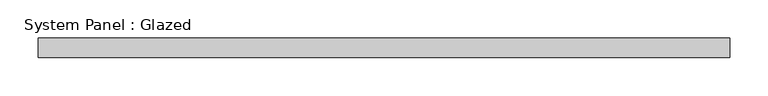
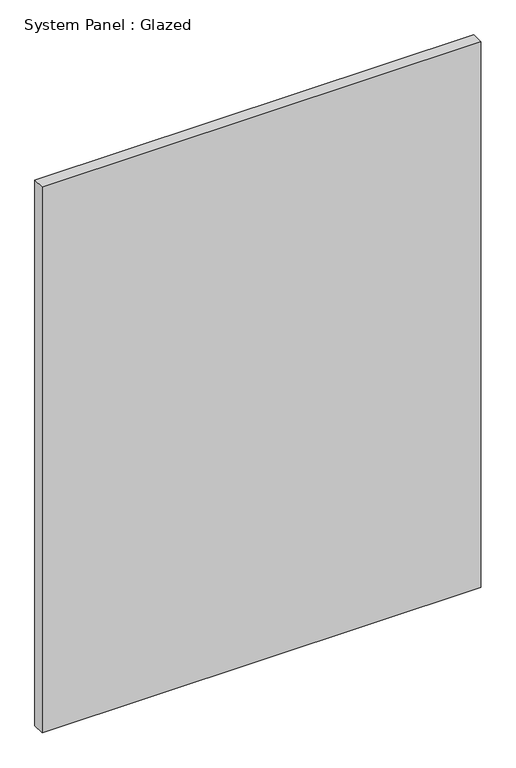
"""IFC4 building model written with IfcOpenShell, lengths in millimetres: plate geometry, System Panel : Glazed."""

import ifcopenshell
import ifcopenshell.guid

model = None  # the IFC model being written
_history = None  # IfcOwnerHistory: only IFC2X3 demands one
_inside = {}  # id of a spatial element -> (the spatial element, [elements in it])
_under = {}  # id of a project, library or spatial element -> (it, [spatial elements below it])
_declared = {}  # id of a project -> (the project, [libraries it declares])
_typed = {}  # id of a type object -> (the type object, [elements of that type])
_made_of = {}  # id of a material, layer set ... -> (it, [elements and type objects made of it])


def new_model(schema):
    """Start an empty IFC model of exactly this schema.

    Asked for "IFC4X3", IfcOpenShell would pick the latest addendum, in which some entities
    have other attributes; the version numbers below select the first issue.
    IFC2X3 requires an IfcOwnerHistory on every rooted entity: one is made here for all.
    """
    global model, _history
    if schema == "IFC4X3":
        model = ifcopenshell.file(schema_version=(4, 3, 0, 0))
    else:
        model = ifcopenshell.file(schema=schema)
    _inside.clear()
    _under.clear()
    _declared.clear()
    _typed.clear()
    _made_of.clear()
    _history = None
    if model.schema == "IFC2X3":
        org = make("IfcOrganization", Name="unknown")
        user = make(
            "IfcPersonAndOrganization",
            ThePerson=make("IfcPerson", FamilyName="unknown"),
            TheOrganization=org,
        )
        app = make(
            "IfcApplication",
            ApplicationDeveloper=org,
            Version="unknown",
            ApplicationFullName="unknown",
            ApplicationIdentifier="unknown",
        )
        _history = make(
            "IfcOwnerHistory",
            OwningUser=user,
            OwningApplication=app,
            ChangeAction="ADDED",
            CreationDate=0,
        )
    return model


def make(cls, **values):
    """One entity of the class cls with the attributes given. An attribute that is None is left unset."""
    return model.create_entity(
        cls, **{name: value for name, value in values.items() if value is not None}
    )


def rooted(cls, **values):
    """An entity with a GlobalId (a new one), such as an element, a storey or a relation."""
    return make(cls, GlobalId=ifcopenshell.guid.new(), OwnerHistory=_history, **values)


def si_unit(unit_type, name, prefix=None):
    """IfcSIUnit, for example si_unit("LENGTHUNIT", "METRE", prefix="MILLI")."""
    return make("IfcSIUnit", UnitType=unit_type, Prefix=prefix, Name=name)


def assignment(units):
    """IfcUnitAssignment: the units of a project."""
    return None if units is None else make("IfcUnitAssignment", Units=units)


def point(xyz):
    """IfcCartesianPoint."""
    return None if xyz is None else make("IfcCartesianPoint", Coordinates=xyz)


def direction(xyz):
    """IfcDirection."""
    return None if xyz is None else make("IfcDirection", DirectionRatios=xyz)


def frame(location, z_axis=None, x_axis=None):
    """IfcAxis2Placement3D, a coordinate frame: its origin and axes. An axis left out is left unset."""
    return make(
        "IfcAxis2Placement3D",
        Location=point(location),
        Axis=direction(z_axis),
        RefDirection=direction(x_axis),
    )


def origin():
    """The frame at (0, 0, 0) with its axes left unset."""
    return frame((0.0, 0.0, 0.0))


def origin_with_axes():
    """The frame at (0, 0, 0) with the z axis (0, 0, 1) and the x axis (1, 0, 0) written out."""
    return frame((0.0, 0.0, 0.0), z_axis=(0.0, 0.0, 1.0), x_axis=(1.0, 0.0, 0.0))


def place(relative_to, where):
    """IfcLocalPlacement: puts the frame where relative to a parent placement (None: the world)."""
    return make(
        "IfcLocalPlacement", PlacementRelTo=relative_to, RelativePlacement=where
    )


def context(
    kind, dimensions, precision=None, world=None, true_north=None, identifier=None
):
    """IfcGeometricRepresentationContext, for example the 3D "Model" context."""
    return make(
        "IfcGeometricRepresentationContext",
        ContextIdentifier=identifier,
        ContextType=kind,
        CoordinateSpaceDimension=dimensions,
        Precision=precision,
        WorldCoordinateSystem=world,
        TrueNorth=true_north,
    )


def project(units=None, contexts=None):
    """IfcProject with its units and contexts."""
    return rooted(
        "IfcProject",
        Name="project",
        RepresentationContexts=contexts,
        UnitsInContext=assignment(units),
    )


def spatial(cls, under=None, at=None, **own):
    """A site, building, storey or space (cls), placed at a placement, below another one or the project."""
    s = rooted(cls, ObjectPlacement=at, **own)
    if under is not None:
        _under.setdefault(under.id(), (under, []))[1].append(s)
    return s


def polyline(points):
    """IfcPolyline through the points."""
    return make("IfcPolyline", Points=[point(p) for p in points])


def outline(outer, holes=None, kind="AREA"):
    """IfcArbitraryClosedProfileDef: a profile drawn as a closed curve; with holes, ...WithVoids."""
    if holes is None:
        return make("IfcArbitraryClosedProfileDef", ProfileType=kind, OuterCurve=outer)
    return make(
        "IfcArbitraryProfileDefWithVoids",
        ProfileType=kind,
        OuterCurve=outer,
        InnerCurves=holes,
    )


def extrude(swept, where, along, depth):
    """IfcExtrudedAreaSolid: the profile swept, set in the frame where, extruded along a direction by depth."""
    return make(
        "IfcExtrudedAreaSolid",
        SweptArea=swept,
        Position=where,
        ExtrudedDirection=direction(along),
        Depth=depth,
    )


def shape(context_of_items, identifier, shape_type, items):
    """IfcShapeRepresentation: the items that make up one representation, for example the "Body"."""
    return make(
        "IfcShapeRepresentation",
        ContextOfItems=context_of_items,
        RepresentationIdentifier=identifier,
        RepresentationType=shape_type,
        Items=items,
    )


def source(mapping_origin, context_of_items, identifier, shape_type, items):
    """IfcRepresentationMap: a shape defined once, which mapped items show again and again."""
    return make(
        "IfcRepresentationMap",
        MappingOrigin=mapping_origin,
        MappedRepresentation=shape(context_of_items, identifier, shape_type, items),
    )


def transform(
    local_origin,
    x_axis=None,
    y_axis=None,
    z_axis=None,
    scale=None,
    scale2=None,
    scale3=None,
    uniform=True,
):
    """IfcCartesianTransformationOperator3D, or its non-uniform kind. x_axis, y_axis, z_axis: its Axis1, 2, 3."""
    if uniform:
        return make(
            "IfcCartesianTransformationOperator3D",
            Axis1=direction(x_axis),
            Axis2=direction(y_axis),
            LocalOrigin=point(local_origin),
            Scale=scale,
            Axis3=direction(z_axis),
        )
    return make(
        "IfcCartesianTransformationOperator3DnonUniform",
        Axis1=direction(x_axis),
        Axis2=direction(y_axis),
        LocalOrigin=point(local_origin),
        Scale=scale,
        Axis3=direction(z_axis),
        Scale2=scale2,
        Scale3=scale3,
    )


def mapped(mapping_source, mapping_target):
    """IfcMappedItem: shows the shape of a source again, moved by a transform."""
    return make(
        "IfcMappedItem", MappingSource=mapping_source, MappingTarget=mapping_target
    )


def made_of(thing, what):
    """Note that an element or type object is made of a material, layer set ...; save() writes the relation."""
    if what is not None:
        _made_of.setdefault(what.id(), (what, []))[1].append(thing)
    return thing


def element(
    cls,
    number,
    at=None,
    inside=None,
    cuts=None,
    type_object=None,
    material=None,
    context=None,
    identifier="Body",
    shape_type=None,
    held_by="IfcProductDefinitionShape",
    body=None,
    shapes=None,
    **own,
):
    """One element of the class cls, such as IfcWall. Its Tag is "e" and its number.

    at: its placement. inside: the storey or other place that contains it. cuts: it is an
    opening in that element (IfcRelVoidsElement). A single representation is given by context,
    identifier, shape_type and body (its items); several are given by shapes. held_by: the class
    of the entity that holds the representations. save() writes the other relations.
    """
    e = rooted(cls, Tag="e%d" % number, ObjectPlacement=at, **own)
    if body is not None:
        shapes = [shape(context, identifier, shape_type, body)]
    if shapes is not None:
        e.Representation = make(held_by, Representations=shapes)
    if inside is not None:
        _inside.setdefault(inside.id(), (inside, []))[1].append(e)
    if cuts is not None:
        rooted(
            "IfcRelVoidsElement", RelatingBuildingElement=cuts, RelatedOpeningElement=e
        )
    if type_object is not None:
        _typed.setdefault(type_object.id(), (type_object, []))[1].append(e)
    return made_of(e, material)


def aggregate(whole, parts):
    """IfcRelAggregates: a whole, such as a stair, and the parts it consists of."""
    return rooted("IfcRelAggregates", RelatingObject=whole, RelatedObjects=parts)


def save(model, path):
    """Write the relations noted so far, then the file.

    IfcRelAggregates (storeys below a building ...), IfcRelContainedInSpatialStructure (elements
    in a storey), IfcRelDefinesByType, IfcRelAssociatesMaterial and IfcRelDeclares: one each for
    every whole, place, type object, material and project.
    """
    for whole, parts in _under.values():
        aggregate(whole, parts)
    for where, things in _inside.values():
        rooted(
            "IfcRelContainedInSpatialStructure",
            RelatedElements=things,
            RelatingStructure=where,
        )
    for kind, things in _typed.values():
        rooted("IfcRelDefinesByType", RelatedObjects=things, RelatingType=kind)
    for what, things in _made_of.values():
        rooted("IfcRelAssociatesMaterial", RelatedObjects=things, RelatingMaterial=what)
    for by, libraries in _declared.values():
        rooted("IfcRelDeclares", RelatingContext=by, RelatedDefinitions=libraries)
    model.write(path)


def system_panel_glazed_2ec935a0(model_context):
    return source(origin(), model_context, "Body", "SweptSolid", [
        extrude(outline(polyline([(451.3791667, -44.45), (-451.3791667, -44.45), (-451.3791667, -19.05), (451.3791667, -19.05), (451.3791667, -44.45)])), origin_with_axes(), (0.0, 0.0, 1.0), 1187.45),
    ])


if __name__ == "__main__":
    model = new_model("IFC4")
    model_context = context("Model", 3, world=origin())
    ifc_project = project(units=[si_unit("LENGTHUNIT", "METRE", prefix="MILLI")], contexts=[model_context])
    site = spatial("IfcSite", under=ifc_project)
    building = spatial("IfcBuilding", under=site)
    placement = place(None, origin())
    system_panel_glazed_shape = system_panel_glazed_2ec935a0(model_context)
    element("IfcPlate", 1, ObjectType="System Panel : Glazed", at=placement, inside=building, context=model_context, shape_type="MappedRepresentation", body=[
        mapped(system_panel_glazed_shape, transform((0.0, 0.0, 0.0), x_axis=(1.0, 0.0, 0.0), y_axis=(0.0, 1.0, 0.0), z_axis=(0.0, 0.0, 1.0))),
    ])
    save(model, "model.ifc")
